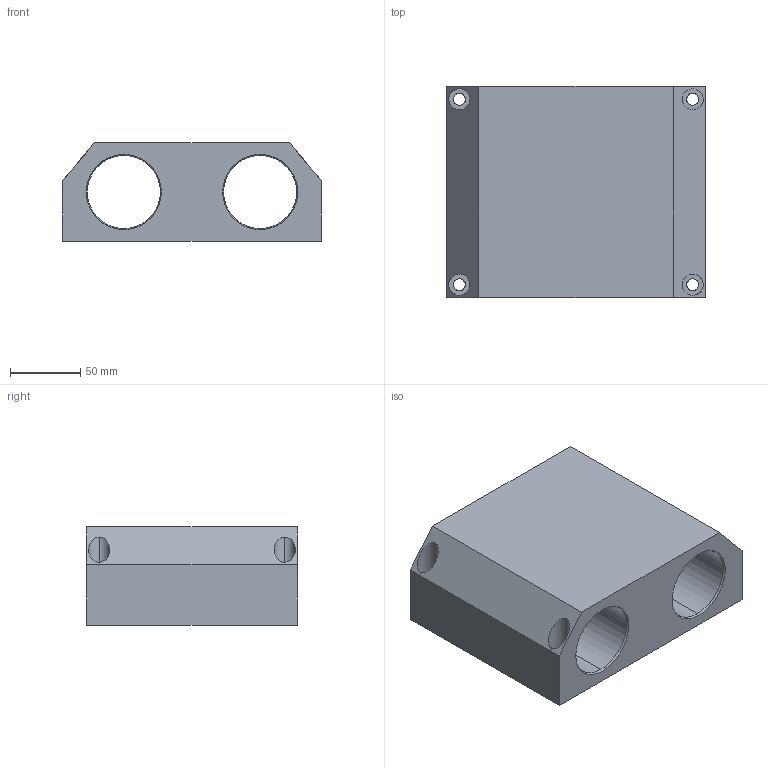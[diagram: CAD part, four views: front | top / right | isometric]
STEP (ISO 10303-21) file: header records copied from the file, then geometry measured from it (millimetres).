
FILE_DESCRIPTION (( 'STEP AP214' ), '1' );
FILE_NAME ('KQSGC-40.step', '2020-03-04T13:10:49', ( '' ), ( '' ), 'SwSTEP 2.0', 'SolidWorks 2019', '' );
FILE_SCHEMA (( 'AUTOMOTIVE_DESIGN' ));
Length unit declared in the file: millimetre
Products named in the file (1): KQSGC-40
Bounding box: 184 x 150 x 70 mm (x, y, z)
Volume: 1181046.4 mm3; surface area: 143116.8 mm2
Topology: 1 solids, 1 shells, 58 faces, 132 edges, 83 vertices
Faces by surface type: cylinder 30, plane 16, cone 12
Entity records: 1862 total; most frequent: DIRECTION 302, CARTESIAN_POINT 296, ORIENTED_EDGE 260, EDGE_CURVE 130, AXIS2_PLACEMENT_3D 121, VERTEX_POINT 83, EDGE_LOOP 79, CIRCLE 62
